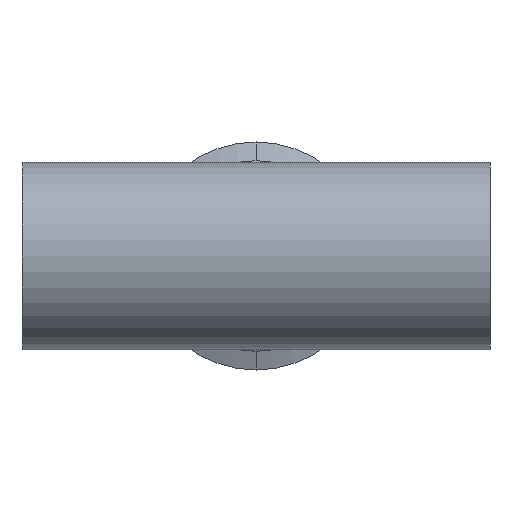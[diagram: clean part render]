
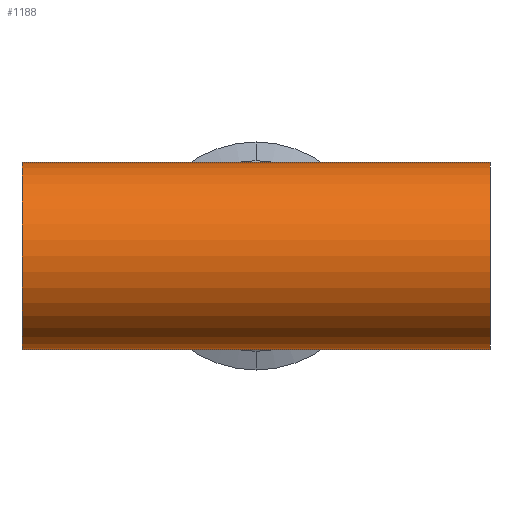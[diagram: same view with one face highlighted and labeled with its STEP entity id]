
A CAD part, front view. The second image highlights one B-rep face of the part: STEP entity #1188.
In plain terms, the highlighted cylindrical face has radius 31.75 mm (diameter 63.5 mm), a partial arc.
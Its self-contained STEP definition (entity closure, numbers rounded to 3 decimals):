
#4 = VECTOR ( 'NONE', #1338, 1000. ) ;
#16 = DIRECTION ( 'NONE',  ( 0., 0., -1. ) ) ;
#24 = DIRECTION ( 'NONE',  ( 1., 0., 0. ) ) ;
#32 = CARTESIAN_POINT ( 'NONE',  ( -79.4, 0., 0. ) ) ;
#46 = AXIS2_PLACEMENT_3D ( 'NONE', #1790, #1783, #1772 ) ;
#118 = VERTEX_POINT ( 'NONE', #1415 ) ;
#155 = LINE ( 'NONE', #209, #4 ) ;
#209 = CARTESIAN_POINT ( 'NONE',  ( -79.4, 0., 31.75 ) ) ;
#215 = AXIS2_PLACEMENT_3D ( 'NONE', #32, #24, #16 ) ;
#232 = EDGE_CURVE ( 'NONE', #118, #425, #1625, .T. ) ;
#280 = ORIENTED_EDGE ( 'NONE', *, *, #1093, .F. ) ;
#316 = EDGE_LOOP ( 'NONE', ( #280, #664, #1265, #631, #1294, #605 ) ) ;
#396 = EDGE_CURVE ( 'NONE', #828, #663, #1153, .T. ) ;
#416 = DIRECTION ( 'NONE',  ( 0., 0., -1. ) ) ;
#425 = VERTEX_POINT ( 'NONE', #1228 ) ;
#527 = AXIS2_PLACEMENT_3D ( 'NONE', #569, #1445, #416 ) ;
#555 = VECTOR ( 'NONE', #1370, 1000. ) ;
#562 = CARTESIAN_POINT ( 'NONE',  ( -79.4, 0., 31.75 ) ) ;
#569 = CARTESIAN_POINT ( 'NONE',  ( -79.4, 0., 0. ) ) ;
#605 = ORIENTED_EDGE ( 'NONE', *, *, #1568, .F. ) ;
#631 = ORIENTED_EDGE ( 'NONE', *, *, #713, .T. ) ;
#663 = VERTEX_POINT ( 'NONE', #1745 ) ;
#664 = ORIENTED_EDGE ( 'NONE', *, *, #1731, .T. ) ;
#694 = LINE ( 'NONE', #1833, #555 ) ;
#713 = EDGE_CURVE ( 'NONE', #663, #118, #694, .T. ) ;
#729 = DIRECTION ( 'NONE',  ( 1., 0., 0. ) ) ;
#828 = VERTEX_POINT ( 'NONE', #944 ) ;
#942 = FACE_OUTER_BOUND ( 'NONE', #316, .T. ) ;
#944 = CARTESIAN_POINT ( 'NONE',  ( -79.4, 0., -31.75 ) ) ;
#1093 = EDGE_CURVE ( 'NONE', #1531, #1262, #1318, .T. ) ;
#1153 = LINE ( 'NONE', #1419, #1241 ) ;
#1188 = ADVANCED_FACE ( 'NONE', ( #942 ), #1587, .T. ) ;
#1228 = CARTESIAN_POINT ( 'NONE',  ( 79.4, 0., 31.75 ) ) ;
#1241 = VECTOR ( 'NONE', #1462, 1000. ) ;
#1262 = VERTEX_POINT ( 'NONE', #1515 ) ;
#1265 = ORIENTED_EDGE ( 'NONE', *, *, #396, .T. ) ;
#1288 = CIRCLE ( 'NONE', #215, 31.75 ) ;
#1294 = ORIENTED_EDGE ( 'NONE', *, *, #232, .T. ) ;
#1318 = LINE ( 'NONE', #562, #1883 ) ;
#1338 = DIRECTION ( 'NONE',  ( 1., 0., 0. ) ) ;
#1370 = DIRECTION ( 'NONE',  ( 1., 0., 0. ) ) ;
#1415 = CARTESIAN_POINT ( 'NONE',  ( 79.4, 0., -31.75 ) ) ;
#1419 = CARTESIAN_POINT ( 'NONE',  ( -79.4, 0., -31.75 ) ) ;
#1445 = DIRECTION ( 'NONE',  ( 1., 0., 0. ) ) ;
#1462 = DIRECTION ( 'NONE',  ( 1., 0., 0. ) ) ;
#1515 = CARTESIAN_POINT ( 'NONE',  ( 0., 0., 31.75 ) ) ;
#1531 = VERTEX_POINT ( 'NONE', #1628 ) ;
#1568 = EDGE_CURVE ( 'NONE', #1262, #425, #155, .T. ) ;
#1587 = CYLINDRICAL_SURFACE ( 'NONE', #527, 31.75 ) ;
#1625 = CIRCLE ( 'NONE', #46, 31.75 ) ;
#1628 = CARTESIAN_POINT ( 'NONE',  ( -79.4, 0., 31.75 ) ) ;
#1731 = EDGE_CURVE ( 'NONE', #1531, #828, #1288, .T. ) ;
#1745 = CARTESIAN_POINT ( 'NONE',  ( 0., 0., -31.75 ) ) ;
#1772 = DIRECTION ( 'NONE',  ( 0., 0., -1. ) ) ;
#1783 = DIRECTION ( 'NONE',  ( -1., 0., 0. ) ) ;
#1790 = CARTESIAN_POINT ( 'NONE',  ( 79.4, 0., 0. ) ) ;
#1833 = CARTESIAN_POINT ( 'NONE',  ( -79.4, 0., -31.75 ) ) ;
#1883 = VECTOR ( 'NONE', #729, 1000. ) ;
